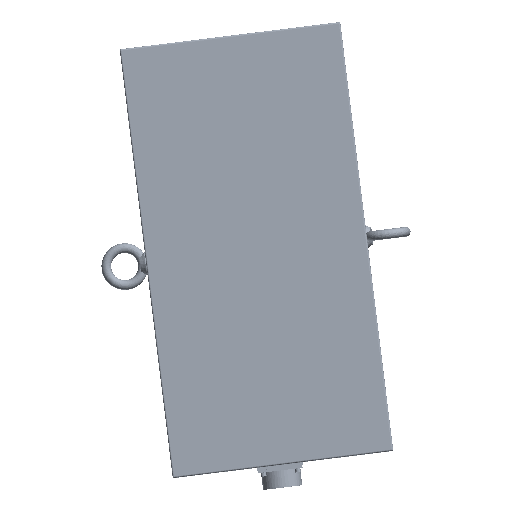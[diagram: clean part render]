
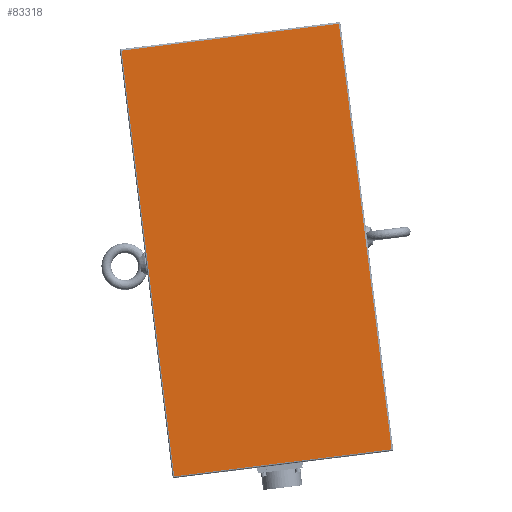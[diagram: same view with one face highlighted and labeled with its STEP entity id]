
A CAD part, top view. The second image highlights one B-rep face of the part: STEP entity #83318.
In plain terms, the highlighted planar face has unit normal (0, 0.001, 1).
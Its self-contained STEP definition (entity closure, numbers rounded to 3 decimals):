
#83279=CARTESIAN_POINT('',(151.804,-127.284,34.699));
#83280=DIRECTION('',(0.992,0.123,0.));
#83281=DIRECTION('',(0.,0.,1.));
#83282=AXIS2_PLACEMENT_3D('',#83279,#83281,#83280);
#83283=PLANE('',#83282);
#83284=CARTESIAN_POINT('',(-156.037,112.687,34.579));
#83285=VERTEX_POINT('',#83284);
#83286=CARTESIAN_POINT('',(-88.167,-435.125,34.853));
#83287=VERTEX_POINT('',#83286);
#83288=CARTESIAN_POINT('',(-156.037,112.687,34.579));
#83289=DIRECTION('',(0.123,-0.992,0.));
#83290=VECTOR('',#83289,552.);
#83291=LINE('',#83288,#83290);
#83292=EDGE_CURVE('',#83285,#83287,#83291,.T.);
#83293=ORIENTED_EDGE('E9149',*,*,#83292,.T.);
#83294=CARTESIAN_POINT('',(191.693,-400.452,34.836));
#83295=VERTEX_POINT('',#83294);
#83296=CARTESIAN_POINT('',(-88.167,-435.125,34.853));
#83297=DIRECTION('',(0.992,0.123,0.));
#83298=VECTOR('',#83297,282.);
#83299=LINE('',#83296,#83298);
#83300=EDGE_CURVE('',#83287,#83295,#83299,.T.);
#83301=ORIENTED_EDGE('E9150',*,*,#83300,.T.);
#83302=CARTESIAN_POINT('',(123.823,147.36,34.562));
#83303=VERTEX_POINT('',#83302);
#83304=CARTESIAN_POINT('',(191.693,-400.452,34.836));
#83305=DIRECTION('',(-0.123,0.992,0.));
#83306=VECTOR('',#83305,552.);
#83307=LINE('',#83304,#83306);
#83308=EDGE_CURVE('',#83295,#83303,#83307,.T.);
#83309=ORIENTED_EDGE('E9151',*,*,#83308,.T.);
#83310=CARTESIAN_POINT('',(123.823,147.36,34.562));
#83311=DIRECTION('',(-0.992,-0.123,0.));
#83312=VECTOR('',#83311,282.);
#83313=LINE('',#83310,#83312);
#83314=EDGE_CURVE('',#83303,#83285,#83313,.T.);
#83315=ORIENTED_EDGE('E9152',*,*,#83314,.T.);
#83316=EDGE_LOOP('',(#83293,#83301,#83309,#83315));
#83317=FACE_OUTER_BOUND('',#83316,.T.);
#83318=ADVANCED_FACE('F3552',(#83317),#83283,.T.);
